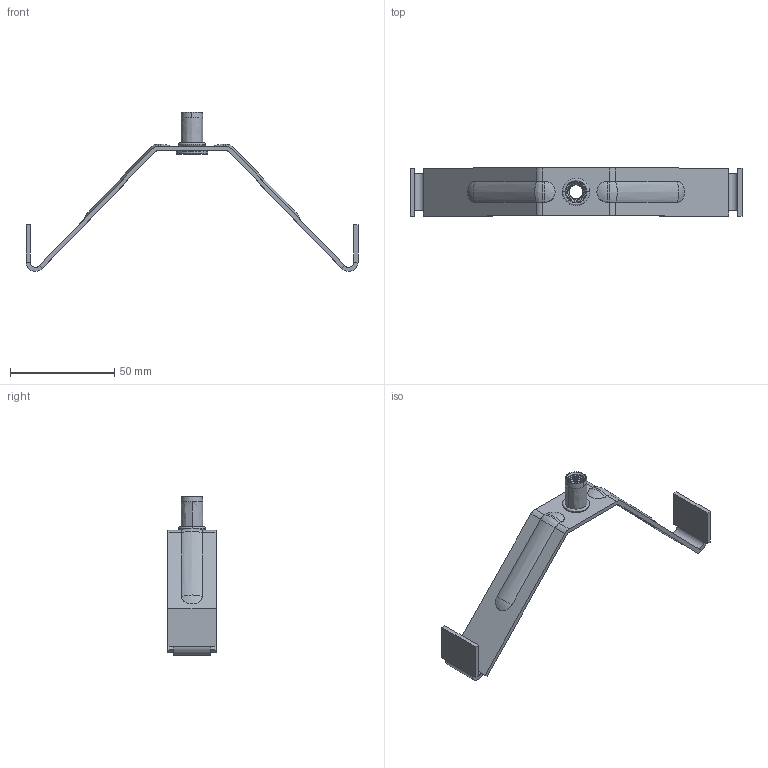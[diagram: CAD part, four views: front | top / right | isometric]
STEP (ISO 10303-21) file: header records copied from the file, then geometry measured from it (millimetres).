
FILE_DESCRIPTION(/* description */ (''),/* implementation_level */ '2;1');
FILE_NAME(/* name */ 'DZM315~1',/* time_stamp */ '2024-09-26T14:17:00+02:00',/* author */ (''),/* organization */ (''),/* preprocessor_version */ 'ST-DEVELOPER v16.5',/* originating_system */ '',/* authorisation */ '');
FILE_SCHEMA (('CONFIG_CONTROL_DESIGN'));
Length unit declared in the file: millimetre
Products named in the file (1): Document
Bounding box: 159 x 23 x 76.15 mm (x, y, z)
Volume: 11128.4 mm3; surface area: 13922.8 mm2
Topology: 2 solids, 3 shells, 1281 faces, 3364 edges, 2083 vertices
Faces by surface type: plane 609, bspline 530, cylinder 142
Entity records: 45070 total; most frequent: CARTESIAN_POINT 23476, ORIENTED_EDGE 6728, EDGE_CURVE 3370, B_SPLINE_CURVE_WITH_KNOTS 2729, VERTEX_POINT 2083, EDGE_LOOP 1286, ADVANCED_FACE 1281, FACE_OUTER_BOUND 1281
